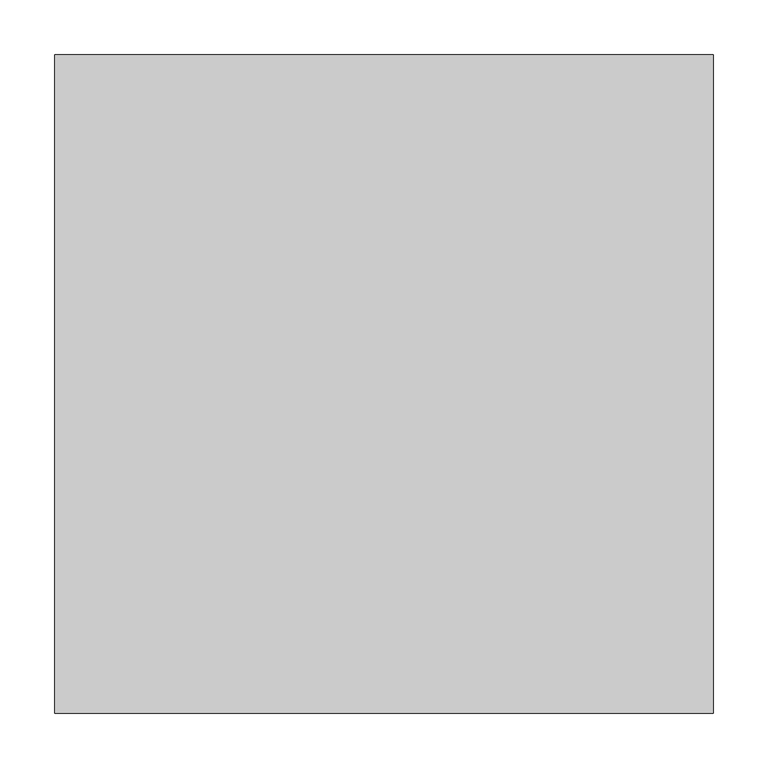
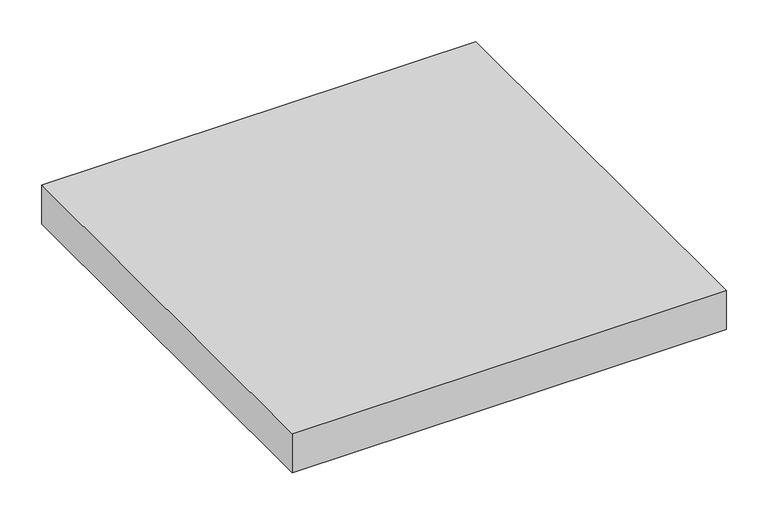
"""IFC4 building model written with IfcOpenShell, lengths in millimetres: proxy geometry, DMS-BWIC Family : BWIC_Square."""

from ifc_helpers import new_model, si_unit, frame, origin, place, context, project, spatial, polyline, outline, extrude, source, transform, mapped, element, save


def generic_models_9b6c9029(model_context):
    return source(origin(), model_context, "Body", "SweptSolid", [
        extrude(outline(polyline([(300.0, 300.0), (300.0, -300.0), (-300.0, -300.0), (-300.0, 300.0), (300.0, 300.0)])), frame((0.0, 0.0, -57.0), z_axis=(0.0, 0.0, 1.0), x_axis=(1.0, 0.0, 0.0)), (0.0, 0.0, 1.0), 57.0),
    ])


if __name__ == "__main__":
    model = new_model("IFC4")
    model_context = context("Model", 3, world=origin())
    ifc_project = project(units=[si_unit("LENGTHUNIT", "METRE", prefix="MILLI")], contexts=[model_context])
    site = spatial("IfcSite", under=ifc_project)
    building = spatial("IfcBuilding", under=site)
    placement = place(None, origin())
    generic_models_shape = generic_models_9b6c9029(model_context)
    element("IfcBuildingElementProxy", 1, Name="DMS-BWIC Family : BWIC_Square", ObjectType="DMS-BWIC Family : BWIC_Square", at=placement, inside=building, context=model_context, shape_type="MappedRepresentation", body=[
        mapped(generic_models_shape, transform((0.0, 0.0, 0.0), x_axis=(1.0, 0.0, 0.0), y_axis=(0.0, 1.0, 0.0), z_axis=(0.0, 0.0, 1.0))),
    ])
    save(model, "model.ifc")
